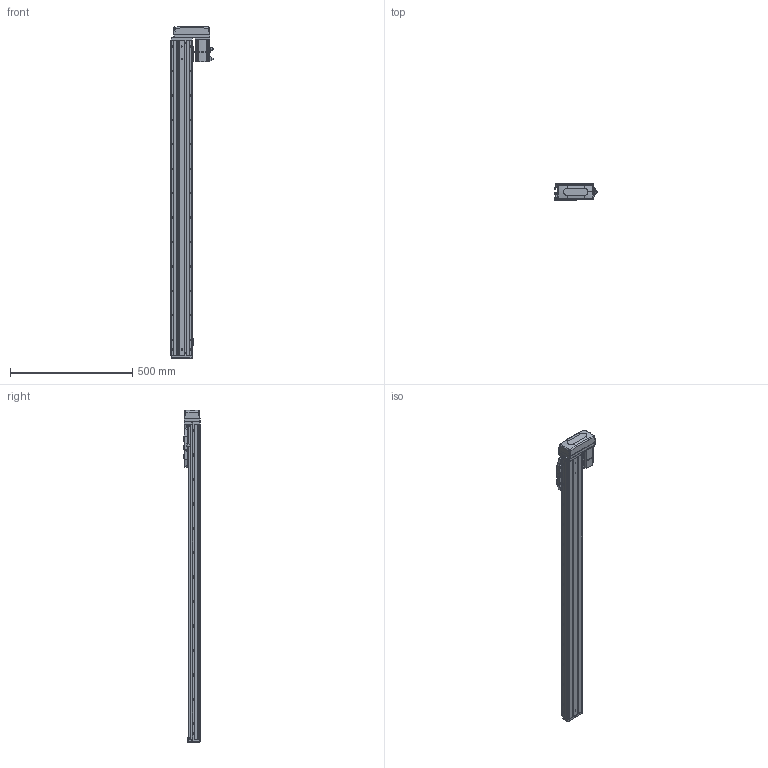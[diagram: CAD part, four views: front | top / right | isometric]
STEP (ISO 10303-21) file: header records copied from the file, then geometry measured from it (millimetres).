
FILE_DESCRIPTION (( 'STEP AP203' ), '1' );
FILE_NAME ('CTHA86-1100-BL-M20-C4L.step', '2022-04-26T00:50:06', ( '微软用户' ), ( '微软中国' ), 'SwSTEP 2.0', 'SolidWorks 2020', '' );
FILE_SCHEMA (( 'CONFIG_CONTROL_DESIGN' ));
Length unit declared in the file: millimetre
Products named in the file (21): CTHA86-033; CTHA60-021; _X2_4E0983F1_X0_200W_1; CTHA86-1100-BL-M20-C4L; KTHA86-001_1290; GBT77-2000 M3×3; CTHA86-002; KTHA86-004; GBT 70.1-M3×20; CTHA86-031; KTHA86-005; GBT70.1 M5℅16; CTHA86-030; GB¨uT 70.2-M3¡Á5_M3¡Á6; GBT 70.1-M3×16; GBT 70.3-M3℅6; EE_SX911P_R; GBT 70.1-M3℅6; CTHA86-015-1_CTHA86-015-2; CTHA60-017; CTHA60-016
Assembly tree (66 placements, depth 2):
  CTHA86-1100-BL-M20-C4L
    KTHA86-001_1290
    KTHA86-004
    KTHA86-005
    GB¨uT 70.2-M3¡Á5_M3¡Á6  x10
    EE_SX911P_R  x3
    CTHA60-017  x3
    CTHA60-021  x2
    GBT77-2000 M3×3  x6
    GBT 70.1-M3×20
    GBT70.1 M5℅16  x14
    GBT 70.1-M3×16  x5
    GBT 70.1-M3℅6  x6
    CTHA60-016  x2
    _X2_4E0983F1_X0_200W_1
    CTHA86-002
    CTHA86-031
    CTHA86-030  x2
    GBT 70.3-M3℅6  x4
    CTHA86-015-1_CTHA86-015-2
    CTHA86-033
Bounding box: 172.7 x 68 x 1359 mm (x, y, z)
Volume: 4954948.5 mm3; surface area: 838592.5 mm2
Topology: 68 solids, 68 shells, 2886 faces, 6932 edges, 4276 vertices
Faces by surface type: plane 1523, cylinder 753, cone 379, torus 132, bspline 75, sphere 24
Entity records: 52311 total; most frequent: CARTESIAN_POINT 10067, DIRECTION 8179, ORIENTED_EDGE 7964, EDGE_CURVE 3982, AXIS2_PLACEMENT_3D 2772, VECTOR 2635, LINE 2635, VERTEX_POINT 2508
